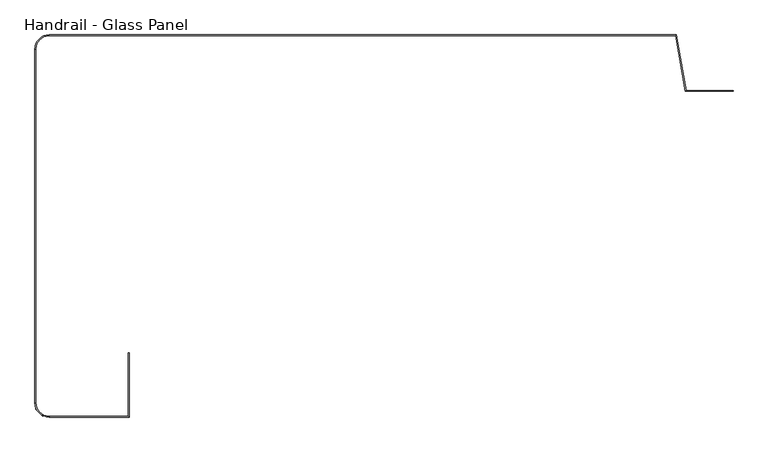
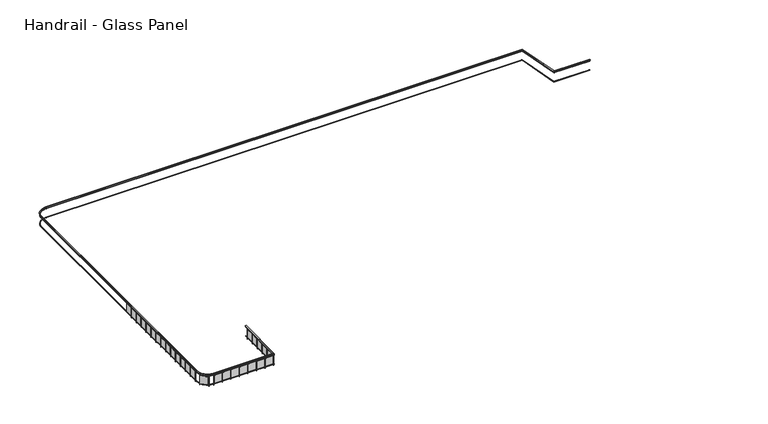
"""IFC4 building model written with IfcOpenShell, lengths in millimetres: railing geometry, Handrail - Glass Panel."""

from ifc_helpers import new_model, si_unit, frame, origin, place, context, project, spatial, polyline, circle_curve, outline, extrude, source, transform, mapped, element, save
from ifc_brep_helpers import plane_surface, cylinder_surface, revolved_surface, advanced_brep


def handrail_glass_panel_4cdfce9a(model_context):
    return source(origin(), model_context, "Body", "SolidModel", [
        advanced_brep(
        [(19857.4134101, 5398.1851347, 5564.4), (19857.4134101, 5347.3851347, 5564.4), (19857.4134101, 5347.3851347, 5513.6), (19857.4134101, 5398.1851347, 5513.6), (17200.0396714, 5398.1851347, 5564.4), (17157.4134101, 5347.3851347, 5564.4), (17157.4134101, 5347.3851347, 5513.6), (17200.0396714, 5398.1851347, 5513.6), (16644.6096821, 8548.1851347, 5564.4), (16601.9834209, 8497.3851347, 5564.4), (16601.9834209, 8497.3851347, 5513.6), (16644.6096821, 8548.1851347, 5513.6), (-18887.5865899, 8548.1851347, 5564.4), (-18887.5865899, 8497.3851347, 5564.4), (-18887.5865899, 8497.3851347, 5513.6), (-18887.5865899, 8548.1851347, 5513.6), (-19637.5865899, 7747.3851347, 5564.4), (-19688.3865899, 7747.3851347, 5564.4), (-19637.5865899, 7747.3851347, 5513.6), (-19688.3865899, 7747.3851347, 5513.6), (-19688.3865899, -12322.6148653, 5564.4), (-19637.5865899, -12322.6148653, 5564.4), (-19637.5865899, -12322.6148653, 5513.6), (-19688.3865899, -12322.6148653, 5513.6), (-18887.5865899, -13072.6148653, 5564.4), (-18887.5865899, -13123.4148653, 5564.4), (-18887.5865899, -13072.6148653, 5513.6), (-18887.5865899, -13123.4148653, 5513.6), (-14346.7865899, -13123.4148653, 5564.4), (-14397.5865899, -13072.6148653, 5564.4), (-14397.5865899, -13072.6148653, 5513.6), (-14346.7865899, -13123.4148653, 5513.6), (-14346.7865899, -9472.6148653, 5564.4), (-14346.7865899, -9472.6148653, 5513.6), (-14397.5865899, -9472.6148653, 5513.6), (-14397.5865899, -9472.6148653, 5564.4)],
        [
            (0, 1),
            (1, 2),
            (2, 3),
            (3, 0),
            (0, 4),
            (4, 5),
            (5, 1),
            (5, 6),
            (6, 2),
            (6, 7),
            (7, 3),
            (7, 4),
            (4, 8),
            (8, 9),
            (9, 5),
            (9, 10),
            (10, 6),
            (10, 11),
            (11, 7),
            (11, 8),
            (8, 12),
            (12, 13),
            (13, 9),
            (13, 14),
            (14, 10),
            (14, 15),
            (15, 11),
            (15, 12),
            (16, 13, circle_curve(frame((-18887.5865899, 7747.3851347, 5564.4), z_axis=(0.0, 0.0, -1.0), x_axis=(0.0, 1.0, 0.0)), 750.0)),
            (12, 17, circle_curve(frame((-18887.5865899, 7747.3851347, 5564.4), z_axis=(0.0, 0.0, 1.0), x_axis=(0.0, 1.0, 0.0)), 800.8)),
            (17, 16),
            (18, 14, circle_curve(frame((-18887.5865899, 7747.3851347, 5513.6), z_axis=(0.0, 0.0, -1.0), x_axis=(0.0, 1.0, 0.0)), 750.0)),
            (16, 18),
            (19, 15, circle_curve(frame((-18887.5865899, 7747.3851347, 5513.6), z_axis=(0.0, 0.0, -1.0), x_axis=(0.0, 1.0, 0.0)), 800.8)),
            (18, 19),
            (19, 17),
            (17, 20),
            (20, 21),
            (21, 16),
            (21, 22),
            (22, 18),
            (22, 23),
            (23, 19),
            (23, 20),
            (24, 21, circle_curve(frame((-18887.5865899, -12322.6148653, 5564.4), z_axis=(0.0, 0.0, -1.0), x_axis=(-1.0, 0.0, 0.0)), 750.0)),
            (20, 25, circle_curve(frame((-18887.5865899, -12322.6148653, 5564.4), z_axis=(0.0, 0.0, 1.0), x_axis=(-1.0, 0.0, 0.0)), 800.8)),
            (25, 24),
            (26, 22, circle_curve(frame((-18887.5865899, -12322.6148653, 5513.6), z_axis=(0.0, 0.0, -1.0), x_axis=(-1.0, 0.0, 0.0)), 750.0)),
            (24, 26),
            (27, 23, circle_curve(frame((-18887.5865899, -12322.6148653, 5513.6), z_axis=(0.0, 0.0, -1.0), x_axis=(-1.0, 0.0, 0.0)), 800.8)),
            (26, 27),
            (27, 25),
            (25, 28),
            (28, 29),
            (29, 24),
            (29, 30),
            (30, 26),
            (30, 31),
            (31, 27),
            (31, 28),
            (32, 33),
            (33, 34),
            (34, 35),
            (35, 32),
            (28, 32),
            (35, 29),
            (34, 30),
            (33, 31),
        ],
        [
            plane_surface(frame((19857.4134101, 5372.7851347, 5564.4), z_axis=(1.0, 0.0, 0.0), x_axis=(0.0, -1.0, 0.0))),
            plane_surface(frame((19857.4134101, 5398.1851347, 5564.4), z_axis=(0.0, 0.0, 1.0), x_axis=(-1.0, 0.0, 0.0))),
            plane_surface(frame((19857.4134101, 5347.3851347, 5564.4), z_axis=(0.0, -1.0, 0.0), x_axis=(-1.0, 0.0, 0.0))),
            plane_surface(frame((19857.4134101, 5347.3851347, 5513.6), z_axis=(0.0, 0.0, -1.0), x_axis=(-1.0, 0.0, 0.0))),
            plane_surface(frame((19857.4134101, 5398.1851347, 5513.6), z_axis=(0.0, 1.0, 0.0), x_axis=(-1.0, 0.0, 0.0))),
            plane_surface(frame((17200.0396714, 5398.1851347, 5564.4), z_axis=(0.0, 0.0, 1.0), x_axis=(-0.17364817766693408, 0.9848077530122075, 0.0))),
            plane_surface(frame((17157.4134101, 5347.3851347, 5564.4), z_axis=(-0.9848077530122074, -0.17364817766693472, 0.0), x_axis=(-0.17364817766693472, 0.9848077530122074, 0.0))),
            plane_surface(frame((17157.4134101, 5347.3851347, 5513.6), z_axis=(0.0, 0.0, -1.0), x_axis=(-0.17364817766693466, 0.9848077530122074, 0.0))),
            plane_surface(frame((17200.0396714, 5398.1851347, 5513.6), z_axis=(0.9848077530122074, 0.17364817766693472, 0.0), x_axis=(-0.17364817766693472, 0.9848077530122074, 0.0))),
            plane_surface(frame((16644.6096821, 8548.1851347, 5564.4), z_axis=(0.0, 0.0, 1.0), x_axis=(-1.0, 0.0, 0.0))),
            plane_surface(frame((16601.9834209, 8497.3851347, 5564.4), z_axis=(0.0, -1.0, 0.0), x_axis=(-1.0, 0.0, 0.0))),
            plane_surface(frame((16601.9834209, 8497.3851347, 5513.6), z_axis=(0.0, 0.0, -1.0), x_axis=(-1.0, 0.0, 0.0))),
            plane_surface(frame((16644.6096821, 8548.1851347, 5513.6), z_axis=(0.0, 1.0, 0.0), x_axis=(-1.0, 0.0, 0.0))),
            plane_surface(frame((-18887.5865899, 7747.3851347, 5564.4), z_axis=(0.0, 0.0, 1.0), x_axis=(0.0, 1.0, 0.0))),
            revolved_surface(polyline([(-18887.5865899, 8497.3851347, 5564.4), (-18887.5865899, 8497.3851347, 5513.6)]), (-18887.5865899, 7747.3851347, 5564.4), (0.0, 0.0, 1.0)),
            plane_surface(frame((-18887.5865899, 7747.3851347, 5513.6), z_axis=(0.0, 0.0, -1.0), x_axis=(0.0, 1.0, 0.0))),
            cylinder_surface(frame((-18887.5865899, 7747.3851347, 5564.4), z_axis=(0.0, 0.0, 1.0), x_axis=(0.0, 1.0, 0.0)), 800.8),
            plane_surface(frame((-19688.3865899, 7747.3851347, 5564.4), z_axis=(0.0, 0.0, 1.0), x_axis=(0.0, -1.0, 0.0))),
            plane_surface(frame((-19637.5865899, 7747.3851347, 5564.4), z_axis=(1.0, 0.0, 0.0), x_axis=(0.0, -1.0, 0.0))),
            plane_surface(frame((-19637.5865899, 7747.3851347, 5513.6), z_axis=(0.0, 0.0, -1.0), x_axis=(0.0, -1.0, 0.0))),
            plane_surface(frame((-19688.3865899, 7747.3851347, 5513.6), z_axis=(-1.0, 0.0, 0.0), x_axis=(0.0, -1.0, 0.0))),
            plane_surface(frame((-18887.5865899, -12322.6148653, 5564.4), z_axis=(0.0, 0.0, 1.0), x_axis=(-1.0, 0.0, 0.0))),
            revolved_surface(polyline([(-19637.5865899, -12322.6148653, 5564.4), (-19637.5865899, -12322.6148653, 5513.6)]), (-18887.5865899, -12322.6148653, 5564.4), (0.0, 0.0, 1.0)),
            plane_surface(frame((-18887.5865899, -12322.6148653, 5513.6), z_axis=(0.0, 0.0, -1.0), x_axis=(-1.0, 0.0, 0.0))),
            cylinder_surface(frame((-18887.5865899, -12322.6148653, 5564.4), z_axis=(0.0, 0.0, 1.0), x_axis=(-1.0, 0.0, 0.0)), 800.8),
            plane_surface(frame((-18887.5865899, -13123.4148653, 5564.4), z_axis=(0.0, 0.0, 1.0), x_axis=(1.0, 0.0, 0.0))),
            plane_surface(frame((-18887.5865899, -13072.6148653, 5564.4), z_axis=(0.0, 1.0, 0.0), x_axis=(1.0, 0.0, 0.0))),
            plane_surface(frame((-18887.5865899, -13072.6148653, 5513.6), z_axis=(0.0, 0.0, -1.0), x_axis=(1.0, 0.0, 0.0))),
            plane_surface(frame((-18887.5865899, -13123.4148653, 5513.6), z_axis=(0.0, -1.0, 0.0), x_axis=(1.0, 0.0, 0.0))),
            plane_surface(frame((-14372.1865899, -9472.6148653, 5564.4), z_axis=(0.0, 1.0, 0.0), x_axis=(0.0, 0.0, 1.0))),
            plane_surface(frame((-14346.7865899, -13123.4148653, 5564.4), z_axis=(0.0, 0.0, 1.0), x_axis=(0.0, 1.0, 0.0))),
            plane_surface(frame((-14397.5865899, -13072.6148653, 5564.4), z_axis=(-1.0, 0.0, 0.0), x_axis=(0.0, 1.0, 0.0))),
            plane_surface(frame((-14397.5865899, -13072.6148653, 5513.6), z_axis=(0.0, 0.0, -1.0), x_axis=(0.0, 1.0, 0.0))),
            plane_surface(frame((-14346.7865899, -13123.4148653, 5513.6), z_axis=(1.0, 0.0, 0.0), x_axis=(0.0, 1.0, 0.0))),
        ],
        [
            (0, [[1, 2, 3, 4]]),
            (1, [[-1, 5, 6, 7]]),
            (2, [[-2, -7, 8, 9]]),
            (3, [[-3, -9, 10, 11]]),
            (4, [[-4, -11, 12, -5]]),
            (5, [[-6, 13, 14, 15]]),
            (6, [[-8, -15, 16, 17]]),
            (7, [[-10, -17, 18, 19]]),
            (8, [[-12, -19, 20, -13]]),
            (9, [[-14, 21, 22, 23]]),
            (10, [[-16, -23, 24, 25]]),
            (11, [[-18, -25, 26, 27]]),
            (12, [[-20, -27, 28, -21]]),
            (13, [[29, -22, 30, 31]]),
            (14, [[32, -24, -29, 33]]),
            (15, [[34, -26, -32, 35]]),
            (16, [[-30, -28, -34, 36]]),
            (17, [[-31, 37, 38, 39]]),
            (18, [[-33, -39, 40, 41]]),
            (19, [[-35, -41, 42, 43]]),
            (20, [[-36, -43, 44, -37]]),
            (21, [[45, -38, 46, 47]]),
            (22, [[48, -40, -45, 49]]),
            (23, [[50, -42, -48, 51]]),
            (24, [[-46, -44, -50, 52]]),
            (25, [[-47, 53, 54, 55]]),
            (26, [[-49, -55, 56, 57]]),
            (27, [[-51, -57, 58, 59]]),
            (28, [[-52, -59, 60, -53]]),
            (29, [[61, 62, 63, 64]]),
            (30, [[-54, 65, -64, 66]]),
            (31, [[-56, -66, -63, 67]]),
            (32, [[-58, -67, -62, 68]]),
            (33, [[-60, -68, -61, -65]]),
        ],
    ),
        advanced_brep(
        [(19857.4134101, 5385.4851347, 5462.8), (19857.4134101, 5360.0851347, 5462.8), (19857.4134101, 5360.0851347, 5437.4), (19857.4134101, 5385.4851347, 5437.4), (17189.3831061, 5385.4851347, 5462.8), (17168.0699754, 5360.0851347, 5462.8), (17168.0699754, 5360.0851347, 5437.4), (17189.3831061, 5385.4851347, 5437.4), (16633.9531168, 8535.4851347, 5462.8), (16612.6399862, 8510.0851347, 5462.8), (16612.6399862, 8510.0851347, 5437.4), (16633.9531168, 8535.4851347, 5437.4), (-18887.5865899, 8535.4851347, 5462.8), (-18887.5865899, 8510.0851347, 5462.8), (-18887.5865899, 8510.0851347, 5437.4), (-18887.5865899, 8535.4851347, 5437.4), (-19650.2865899, 7747.3851347, 5462.8), (-19675.6865899, 7747.3851347, 5462.8), (-19650.2865899, 7747.3851347, 5437.4), (-19675.6865899, 7747.3851347, 5437.4), (-19675.6865899, -12322.6148653, 5462.8), (-19650.2865899, -12322.6148653, 5462.8), (-19650.2865899, -12322.6148653, 5437.4), (-19675.6865899, -12322.6148653, 5437.4), (-18887.5865899, -13085.3148653, 5462.8), (-18887.5865899, -13110.7148653, 5462.8), (-18887.5865899, -13085.3148653, 5437.4), (-18887.5865899, -13110.7148653, 5437.4), (-14359.4865899, -13110.7148653, 5462.8), (-14384.8865899, -13085.3148653, 5462.8), (-14384.8865899, -13085.3148653, 5437.4), (-14359.4865899, -13110.7148653, 5437.4), (-14359.4865899, -9472.6148653, 5462.8), (-14359.4865899, -9472.6148653, 5437.4), (-14384.8865899, -9472.6148653, 5437.4), (-14384.8865899, -9472.6148653, 5462.8)],
        [
            (0, 1),
            (1, 2),
            (2, 3),
            (3, 0),
            (0, 4),
            (4, 5),
            (5, 1),
            (5, 6),
            (6, 2),
            (6, 7),
            (7, 3),
            (7, 4),
            (4, 8),
            (8, 9),
            (9, 5),
            (9, 10),
            (10, 6),
            (10, 11),
            (11, 7),
            (11, 8),
            (8, 12),
            (12, 13),
            (13, 9),
            (13, 14),
            (14, 10),
            (14, 15),
            (15, 11),
            (15, 12),
            (16, 13, circle_curve(frame((-18887.5865899, 7747.3851347, 5462.8), z_axis=(0.0, 0.0, -1.0), x_axis=(0.0, 1.0, 0.0)), 762.7)),
            (12, 17, circle_curve(frame((-18887.5865899, 7747.3851347, 5462.8), z_axis=(0.0, 0.0, 1.0), x_axis=(0.0, 1.0, 0.0)), 788.1)),
            (17, 16),
            (18, 14, circle_curve(frame((-18887.5865899, 7747.3851347, 5437.4), z_axis=(0.0, 0.0, -1.0), x_axis=(0.0, 1.0, 0.0)), 762.7)),
            (16, 18),
            (19, 15, circle_curve(frame((-18887.5865899, 7747.3851347, 5437.4), z_axis=(0.0, 0.0, -1.0), x_axis=(0.0, 1.0, 0.0)), 788.1)),
            (18, 19),
            (19, 17),
            (17, 20),
            (20, 21),
            (21, 16),
            (21, 22),
            (22, 18),
            (22, 23),
            (23, 19),
            (23, 20),
            (24, 21, circle_curve(frame((-18887.5865899, -12322.6148653, 5462.8), z_axis=(0.0, 0.0, -1.0), x_axis=(-1.0, 0.0, 0.0)), 762.7)),
            (20, 25, circle_curve(frame((-18887.5865899, -12322.6148653, 5462.8), z_axis=(0.0, 0.0, 1.0), x_axis=(-1.0, 0.0, 0.0)), 788.1)),
            (25, 24),
            (26, 22, circle_curve(frame((-18887.5865899, -12322.6148653, 5437.4), z_axis=(0.0, 0.0, -1.0), x_axis=(-1.0, 0.0, 0.0)), 762.7)),
            (24, 26),
            (27, 23, circle_curve(frame((-18887.5865899, -12322.6148653, 5437.4), z_axis=(0.0, 0.0, -1.0), x_axis=(-1.0, 0.0, 0.0)), 788.1)),
            (26, 27),
            (27, 25),
            (25, 28),
            (28, 29),
            (29, 24),
            (29, 30),
            (30, 26),
            (30, 31),
            (31, 27),
            (31, 28),
            (32, 33),
            (33, 34),
            (34, 35),
            (35, 32),
            (28, 32),
            (35, 29),
            (34, 30),
            (33, 31),
        ],
        [
            plane_surface(frame((19857.4134101, 5372.7851347, 5462.8), z_axis=(1.0, 0.0, 0.0), x_axis=(0.0, -1.0, 0.0))),
            plane_surface(frame((19857.4134101, 5385.4851347, 5462.8), z_axis=(0.0, 0.0, 1.0), x_axis=(-1.0, 0.0, 0.0))),
            plane_surface(frame((19857.4134101, 5360.0851347, 5462.8), z_axis=(0.0, -1.0, 0.0), x_axis=(-1.0, 0.0, 0.0))),
            plane_surface(frame((19857.4134101, 5360.0851347, 5437.4), z_axis=(0.0, 0.0, -1.0), x_axis=(-1.0, 0.0, 0.0))),
            plane_surface(frame((19857.4134101, 5385.4851347, 5437.4), z_axis=(0.0, 1.0, 0.0), x_axis=(-1.0, 0.0, 0.0))),
            plane_surface(frame((17189.3831061, 5385.4851347, 5462.8), z_axis=(0.0, 0.0, 1.0), x_axis=(-0.17364817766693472, 0.9848077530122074, 0.0))),
            plane_surface(frame((17168.0699754, 5360.0851347, 5462.8), z_axis=(-0.9848077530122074, -0.17364817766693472, 0.0), x_axis=(-0.17364817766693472, 0.9848077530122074, 0.0))),
            plane_surface(frame((17168.0699754, 5360.0851347, 5437.4), z_axis=(0.0, 0.0, -1.0), x_axis=(-0.17364817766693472, 0.9848077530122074, 0.0))),
            plane_surface(frame((17189.3831061, 5385.4851347, 5437.4), z_axis=(0.9848077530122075, 0.17364817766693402, 0.0), x_axis=(-0.17364817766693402, 0.9848077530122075, 0.0))),
            plane_surface(frame((16633.9531168, 8535.4851347, 5462.8), z_axis=(0.0, 0.0, 1.0), x_axis=(-1.0, 0.0, 0.0))),
            plane_surface(frame((16612.6399862, 8510.0851347, 5462.8), z_axis=(0.0, -1.0, 0.0), x_axis=(-1.0, 0.0, 0.0))),
            plane_surface(frame((16612.6399862, 8510.0851347, 5437.4), z_axis=(0.0, 0.0, -1.0), x_axis=(-1.0, 0.0, 0.0))),
            plane_surface(frame((16633.9531168, 8535.4851347, 5437.4), z_axis=(0.0, 1.0, 0.0), x_axis=(-1.0, 0.0, 0.0))),
            plane_surface(frame((-18887.5865899, 7747.3851347, 5462.8), z_axis=(0.0, 0.0, 1.0), x_axis=(0.0, 1.0, 0.0))),
            revolved_surface(polyline([(-18887.5865899, 8510.0851347, 5462.8), (-18887.5865899, 8510.0851347, 5437.4)]), (-18887.5865899, 7747.3851347, 5462.8), (0.0, 0.0, 1.0)),
            plane_surface(frame((-18887.5865899, 7747.3851347, 5437.4), z_axis=(0.0, 0.0, -1.0), x_axis=(0.0, 1.0, 0.0))),
            cylinder_surface(frame((-18887.5865899, 7747.3851347, 5462.8), z_axis=(0.0, 0.0, 1.0), x_axis=(0.0, 1.0, 0.0)), 788.1),
            plane_surface(frame((-19675.6865899, 7747.3851347, 5462.8), z_axis=(0.0, 0.0, 1.0), x_axis=(0.0, -1.0, 0.0))),
            plane_surface(frame((-19650.2865899, 7747.3851347, 5462.8), z_axis=(1.0, 0.0, 0.0), x_axis=(0.0, -1.0, 0.0))),
            plane_surface(frame((-19650.2865899, 7747.3851347, 5437.4), z_axis=(0.0, 0.0, -1.0), x_axis=(0.0, -1.0, 0.0))),
            plane_surface(frame((-19675.6865899, 7747.3851347, 5437.4), z_axis=(-1.0, 0.0, 0.0), x_axis=(0.0, -1.0, 0.0))),
            plane_surface(frame((-18887.5865899, -12322.6148653, 5462.8), z_axis=(0.0, 0.0, 1.0), x_axis=(-1.0, 0.0, 0.0))),
            revolved_surface(polyline([(-19650.2865899, -12322.6148653, 5462.8), (-19650.2865899, -12322.6148653, 5437.4)]), (-18887.5865899, -12322.6148653, 5462.8), (0.0, 0.0, 1.0)),
            plane_surface(frame((-18887.5865899, -12322.6148653, 5437.4), z_axis=(0.0, 0.0, -1.0), x_axis=(-1.0, 0.0, 0.0))),
            cylinder_surface(frame((-18887.5865899, -12322.6148653, 5462.8), z_axis=(0.0, 0.0, 1.0), x_axis=(-1.0, 0.0, 0.0)), 788.1),
            plane_surface(frame((-18887.5865899, -13110.7148653, 5462.8), z_axis=(0.0, 0.0, 1.0), x_axis=(1.0, 0.0, 0.0))),
            plane_surface(frame((-18887.5865899, -13085.3148653, 5462.8), z_axis=(0.0, 1.0, 0.0), x_axis=(1.0, 0.0, 0.0))),
            plane_surface(frame((-18887.5865899, -13085.3148653, 5437.4), z_axis=(0.0, 0.0, -1.0), x_axis=(1.0, 0.0, 0.0))),
            plane_surface(frame((-18887.5865899, -13110.7148653, 5437.4), z_axis=(0.0, -1.0, 0.0), x_axis=(1.0, 0.0, 0.0))),
            plane_surface(frame((-14372.1865899, -9472.6148653, 5462.8), z_axis=(0.0, 1.0, 0.0), x_axis=(0.0, 0.0, 1.0))),
            plane_surface(frame((-14359.4865899, -13110.7148653, 5462.8), z_axis=(0.0, 0.0, 1.0), x_axis=(0.0, 1.0, 0.0))),
            plane_surface(frame((-14384.8865899, -13085.3148653, 5462.8), z_axis=(-1.0, 0.0, 0.0), x_axis=(0.0, 1.0, 0.0))),
            plane_surface(frame((-14384.8865899, -13085.3148653, 5437.4), z_axis=(0.0, 0.0, -1.0), x_axis=(0.0, 1.0, 0.0))),
            plane_surface(frame((-14359.4865899, -13110.7148653, 5437.4), z_axis=(1.0, 0.0, 0.0), x_axis=(0.0, 1.0, 0.0))),
        ],
        [
            (0, [[1, 2, 3, 4]]),
            (1, [[-1, 5, 6, 7]]),
            (2, [[-2, -7, 8, 9]]),
            (3, [[-3, -9, 10, 11]]),
            (4, [[-4, -11, 12, -5]]),
            (5, [[-6, 13, 14, 15]]),
            (6, [[-8, -15, 16, 17]]),
            (7, [[-10, -17, 18, 19]]),
            (8, [[-12, -19, 20, -13]]),
            (9, [[-14, 21, 22, 23]]),
            (10, [[-16, -23, 24, 25]]),
            (11, [[-18, -25, 26, 27]]),
            (12, [[-20, -27, 28, -21]]),
            (13, [[29, -22, 30, 31]]),
            (14, [[32, -24, -29, 33]]),
            (15, [[34, -26, -32, 35]]),
            (16, [[-30, -28, -34, 36]]),
            (17, [[-31, 37, 38, 39]]),
            (18, [[-33, -39, 40, 41]]),
            (19, [[-35, -41, 42, 43]]),
            (20, [[-36, -43, 44, -37]]),
            (21, [[45, -38, 46, 47]]),
            (22, [[48, -40, -45, 49]]),
            (23, [[50, -42, -48, 51]]),
            (24, [[-46, -44, -50, 52]]),
            (25, [[-47, 53, 54, 55]]),
            (26, [[-49, -55, 56, 57]]),
            (27, [[-51, -57, 58, 59]]),
            (28, [[-52, -59, 60, -53]]),
            (29, [[61, 62, 63, 64]]),
            (30, [[-54, 65, -64, 66]]),
            (31, [[-56, -66, -63, 67]]),
            (32, [[-58, -67, -62, 68]]),
            (33, [[-60, -68, -61, -65]]),
        ],
    ),
        advanced_brep(
        [(19857.4134101, 5385.4851347, 4751.6), (19857.4134101, 5360.0851347, 4751.6), (19857.4134101, 5360.0851347, 4726.2), (19857.4134101, 5385.4851347, 4726.2), (17189.3831061, 5385.4851347, 4751.6), (17168.0699754, 5360.0851347, 4751.6), (17168.0699754, 5360.0851347, 4726.2), (17189.3831061, 5385.4851347, 4726.2), (16633.9531168, 8535.4851347, 4751.6), (16612.6399862, 8510.0851347, 4751.6), (16612.6399862, 8510.0851347, 4726.2), (16633.9531168, 8535.4851347, 4726.2), (-18887.5865899, 8535.4851347, 4751.6), (-18887.5865899, 8510.0851347, 4751.6), (-18887.5865899, 8510.0851347, 4726.2), (-18887.5865899, 8535.4851347, 4726.2), (-19650.2865899, 7747.3851347, 4751.6), (-19675.6865899, 7747.3851347, 4751.6), (-19650.2865899, 7747.3851347, 4726.2), (-19675.6865899, 7747.3851347, 4726.2), (-19675.6865899, -12322.6148653, 4751.6), (-19650.2865899, -12322.6148653, 4751.6), (-19650.2865899, -12322.6148653, 4726.2), (-19675.6865899, -12322.6148653, 4726.2), (-18887.5865899, -13085.3148653, 4751.6), (-18887.5865899, -13110.7148653, 4751.6), (-18887.5865899, -13085.3148653, 4726.2), (-18887.5865899, -13110.7148653, 4726.2), (-14359.4865899, -13110.7148653, 4751.6), (-14384.8865899, -13085.3148653, 4751.6), (-14384.8865899, -13085.3148653, 4726.2), (-14359.4865899, -13110.7148653, 4726.2), (-14359.4865899, -9472.6148653, 4751.6), (-14359.4865899, -9472.6148653, 4726.2), (-14384.8865899, -9472.6148653, 4726.2), (-14384.8865899, -9472.6148653, 4751.6)],
        [
            (0, 1),
            (1, 2),
            (2, 3),
            (3, 0),
            (0, 4),
            (4, 5),
            (5, 1),
            (5, 6),
            (6, 2),
            (6, 7),
            (7, 3),
            (7, 4),
            (4, 8),
            (8, 9),
            (9, 5),
            (9, 10),
            (10, 6),
            (10, 11),
            (11, 7),
            (11, 8),
            (8, 12),
            (12, 13),
            (13, 9),
            (13, 14),
            (14, 10),
            (14, 15),
            (15, 11),
            (15, 12),
            (16, 13, circle_curve(frame((-18887.5865899, 7747.3851347, 4751.6), z_axis=(0.0, 0.0, -1.0), x_axis=(0.0, 1.0, 0.0)), 762.7)),
            (12, 17, circle_curve(frame((-18887.5865899, 7747.3851347, 4751.6), z_axis=(0.0, 0.0, 1.0), x_axis=(0.0, 1.0, 0.0)), 788.1)),
            (17, 16),
            (18, 14, circle_curve(frame((-18887.5865899, 7747.3851347, 4726.2), z_axis=(0.0, 0.0, -1.0), x_axis=(0.0, 1.0, 0.0)), 762.7)),
            (16, 18),
            (19, 15, circle_curve(frame((-18887.5865899, 7747.3851347, 4726.2), z_axis=(0.0, 0.0, -1.0), x_axis=(0.0, 1.0, 0.0)), 788.1)),
            (18, 19),
            (19, 17),
            (17, 20),
            (20, 21),
            (21, 16),
            (21, 22),
            (22, 18),
            (22, 23),
            (23, 19),
            (23, 20),
            (24, 21, circle_curve(frame((-18887.5865899, -12322.6148653, 4751.6), z_axis=(0.0, 0.0, -1.0), x_axis=(-1.0, 0.0, 0.0)), 762.7)),
            (20, 25, circle_curve(frame((-18887.5865899, -12322.6148653, 4751.6), z_axis=(0.0, 0.0, 1.0), x_axis=(-1.0, 0.0, 0.0)), 788.1)),
            (25, 24),
            (26, 22, circle_curve(frame((-18887.5865899, -12322.6148653, 4726.2), z_axis=(0.0, 0.0, -1.0), x_axis=(-1.0, 0.0, 0.0)), 762.7)),
            (24, 26),
            (27, 23, circle_curve(frame((-18887.5865899, -12322.6148653, 4726.2), z_axis=(0.0, 0.0, -1.0), x_axis=(-1.0, 0.0, 0.0)), 788.1)),
            (26, 27),
            (27, 25),
            (25, 28),
            (28, 29),
            (29, 24),
            (29, 30),
            (30, 26),
            (30, 31),
            (31, 27),
            (31, 28),
            (32, 33),
            (33, 34),
            (34, 35),
            (35, 32),
            (28, 32),
            (35, 29),
            (34, 30),
            (33, 31),
        ],
        [
            plane_surface(frame((19857.4134101, 5372.7851347, 4751.6), z_axis=(1.0, 0.0, 0.0), x_axis=(0.0, -1.0, 0.0))),
            plane_surface(frame((19857.4134101, 5385.4851347, 4751.6), z_axis=(0.0, 0.0, 1.0), x_axis=(-1.0, 0.0, 0.0))),
            plane_surface(frame((19857.4134101, 5360.0851347, 4751.6), z_axis=(0.0, -1.0, 0.0), x_axis=(-1.0, 0.0, 0.0))),
            plane_surface(frame((19857.4134101, 5360.0851347, 4726.2), z_axis=(0.0, 0.0, -1.0), x_axis=(-1.0, 0.0, 0.0))),
            plane_surface(frame((19857.4134101, 5385.4851347, 4726.2), z_axis=(0.0, 1.0, 0.0), x_axis=(-1.0, 0.0, 0.0))),
            plane_surface(frame((17189.3831061, 5385.4851347, 4751.6), z_axis=(0.0, 0.0, 1.0), x_axis=(-0.17364817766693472, 0.9848077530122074, 0.0))),
            plane_surface(frame((17168.0699754, 5360.0851347, 4751.6), z_axis=(-0.9848077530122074, -0.17364817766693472, 0.0), x_axis=(-0.17364817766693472, 0.9848077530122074, 0.0))),
            plane_surface(frame((17168.0699754, 5360.0851347, 4726.2), z_axis=(0.0, 0.0, -1.0), x_axis=(-0.17364817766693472, 0.9848077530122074, 0.0))),
            plane_surface(frame((17189.3831061, 5385.4851347, 4726.2), z_axis=(0.9848077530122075, 0.17364817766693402, 0.0), x_axis=(-0.17364817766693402, 0.9848077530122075, 0.0))),
            plane_surface(frame((16633.9531168, 8535.4851347, 4751.6), z_axis=(0.0, 0.0, 1.0), x_axis=(-1.0, 0.0, 0.0))),
            plane_surface(frame((16612.6399862, 8510.0851347, 4751.6), z_axis=(0.0, -1.0, 0.0), x_axis=(-1.0, 0.0, 0.0))),
            plane_surface(frame((16612.6399862, 8510.0851347, 4726.2), z_axis=(0.0, 0.0, -1.0), x_axis=(-1.0, 0.0, 0.0))),
            plane_surface(frame((16633.9531168, 8535.4851347, 4726.2), z_axis=(0.0, 1.0, 0.0), x_axis=(-1.0, 0.0, 0.0))),
            plane_surface(frame((-18887.5865899, 7747.3851347, 4751.6), z_axis=(0.0, 0.0, 1.0), x_axis=(0.0, 1.0, 0.0))),
            revolved_surface(polyline([(-18887.5865899, 8510.0851347, 4751.6), (-18887.5865899, 8510.0851347, 4726.2)]), (-18887.5865899, 7747.3851347, 4751.6), (0.0, 0.0, 1.0)),
            plane_surface(frame((-18887.5865899, 7747.3851347, 4726.2), z_axis=(0.0, 0.0, -1.0), x_axis=(0.0, 1.0, 0.0))),
            cylinder_surface(frame((-18887.5865899, 7747.3851347, 4751.6), z_axis=(0.0, 0.0, 1.0), x_axis=(0.0, 1.0, 0.0)), 788.1),
            plane_surface(frame((-19675.6865899, 7747.3851347, 4751.6), z_axis=(0.0, 0.0, 1.0), x_axis=(0.0, -1.0, 0.0))),
            plane_surface(frame((-19650.2865899, 7747.3851347, 4751.6), z_axis=(1.0, 0.0, 0.0), x_axis=(0.0, -1.0, 0.0))),
            plane_surface(frame((-19650.2865899, 7747.3851347, 4726.2), z_axis=(0.0, 0.0, -1.0), x_axis=(0.0, -1.0, 0.0))),
            plane_surface(frame((-19675.6865899, 7747.3851347, 4726.2), z_axis=(-1.0, 0.0, 0.0), x_axis=(0.0, -1.0, 0.0))),
            plane_surface(frame((-18887.5865899, -12322.6148653, 4751.6), z_axis=(0.0, 0.0, 1.0), x_axis=(-1.0, 0.0, 0.0))),
            revolved_surface(polyline([(-19650.2865899, -12322.6148653, 4751.6), (-19650.2865899, -12322.6148653, 4726.2)]), (-18887.5865899, -12322.6148653, 4751.6), (0.0, 0.0, 1.0)),
            plane_surface(frame((-18887.5865899, -12322.6148653, 4726.2), z_axis=(0.0, 0.0, -1.0), x_axis=(-1.0, 0.0, 0.0))),
            cylinder_surface(frame((-18887.5865899, -12322.6148653, 4751.6), z_axis=(0.0, 0.0, 1.0), x_axis=(-1.0, 0.0, 0.0)), 788.1),
            plane_surface(frame((-18887.5865899, -13110.7148653, 4751.6), z_axis=(0.0, 0.0, 1.0), x_axis=(1.0, 0.0, 0.0))),
            plane_surface(frame((-18887.5865899, -13085.3148653, 4751.6), z_axis=(0.0, 1.0, 0.0), x_axis=(1.0, 0.0, 0.0))),
            plane_surface(frame((-18887.5865899, -13085.3148653, 4726.2), z_axis=(0.0, 0.0, -1.0), x_axis=(1.0, 0.0, 0.0))),
            plane_surface(frame((-18887.5865899, -13110.7148653, 4726.2), z_axis=(0.0, -1.0, 0.0), x_axis=(1.0, 0.0, 0.0))),
            plane_surface(frame((-14372.1865899, -9472.6148653, 4751.6), z_axis=(0.0, 1.0, 0.0), x_axis=(0.0, 0.0, 1.0))),
            plane_surface(frame((-14359.4865899, -13110.7148653, 4751.6), z_axis=(0.0, 0.0, 1.0), x_axis=(0.0, 1.0, 0.0))),
            plane_surface(frame((-14384.8865899, -13085.3148653, 4751.6), z_axis=(-1.0, 0.0, 0.0), x_axis=(0.0, 1.0, 0.0))),
            plane_surface(frame((-14384.8865899, -13085.3148653, 4726.2), z_axis=(0.0, 0.0, -1.0), x_axis=(0.0, 1.0, 0.0))),
            plane_surface(frame((-14359.4865899, -13110.7148653, 4726.2), z_axis=(1.0, 0.0, 0.0), x_axis=(0.0, 1.0, 0.0))),
        ],
        [
            (0, [[1, 2, 3, 4]]),
            (1, [[-1, 5, 6, 7]]),
            (2, [[-2, -7, 8, 9]]),
            (3, [[-3, -9, 10, 11]]),
            (4, [[-4, -11, 12, -5]]),
            (5, [[-6, 13, 14, 15]]),
            (6, [[-8, -15, 16, 17]]),
            (7, [[-10, -17, 18, 19]]),
            (8, [[-12, -19, 20, -13]]),
            (9, [[-14, 21, 22, 23]]),
            (10, [[-16, -23, 24, 25]]),
            (11, [[-18, -25, 26, 27]]),
            (12, [[-20, -27, 28, -21]]),
            (13, [[29, -22, 30, 31]]),
            (14, [[32, -24, -29, 33]]),
            (15, [[34, -26, -32, 35]]),
            (16, [[-30, -28, -34, 36]]),
            (17, [[-31, 37, 38, 39]]),
            (18, [[-33, -39, 40, 41]]),
            (19, [[-35, -41, 42, 43]]),
            (20, [[-36, -43, 44, -37]]),
            (21, [[45, -38, 46, 47]]),
            (22, [[48, -40, -45, 49]]),
            (23, [[50, -42, -48, 51]]),
            (24, [[-46, -44, -50, 52]]),
            (25, [[-47, 53, 54, 55]]),
            (26, [[-49, -55, 56, 57]]),
            (27, [[-51, -57, 58, 59]]),
            (28, [[-52, -59, 60, -53]]),
            (29, [[61, 62, 63, 64]]),
            (30, [[-54, 65, -64, 66]]),
            (31, [[-56, -66, -63, 67]]),
            (32, [[-58, -67, -62, 68]]),
            (33, [[-60, -68, -61, -65]]),
        ],
    ),
        extrude(outline(polyline([(-14362.6615899, -9707.3398653), (-14381.7115899, -9707.3398653), (-14381.7115899, -9688.2898653), (-14362.6615899, -9688.2898653), (-14362.6615899, -9707.3398653)])), frame((0.0, 0.0, 4650.0), z_axis=(0.0, 0.0, 1.0), x_axis=(1.0, 0.0, 0.0)), (0.0, 0.0, 1.0), 863.6),
        extrude(outline(polyline([(-14378.5365899, -10294.7148653), (-14378.5365899, -9735.9148653), (-14372.1865899, -9735.9148653), (-14372.1865899, -10294.7148653), (-14378.5365899, -10294.7148653)])), frame((0.0, 0.0, 4777.0), z_axis=(0.0, 0.0, 1.0), x_axis=(1.0, 0.0, 0.0)), (0.0, 0.0, 1.0), 635.0),
        extrude(outline(polyline([(-14362.6615899, -10342.3398653), (-14381.7115899, -10342.3398653), (-14381.7115899, -10323.2898653), (-14362.6615899, -10323.2898653), (-14362.6615899, -10342.3398653)])), frame((0.0, 0.0, 4650.0), z_axis=(0.0, 0.0, 1.0), x_axis=(1.0, 0.0, 0.0)), (0.0, 0.0, 1.0), 863.6),
        extrude(outline(polyline([(-14378.5365899, -10929.7148653), (-14378.5365899, -10370.9148653), (-14372.1865899, -10370.9148653), (-14372.1865899, -10929.7148653), (-14378.5365899, -10929.7148653)])), frame((0.0, 0.0, 4777.0), z_axis=(0.0, 0.0, 1.0), x_axis=(1.0, 0.0, 0.0)), (0.0, 0.0, 1.0), 635.0),
        extrude(outline(polyline([(-14362.6615899, -10977.3398653), (-14381.7115899, -10977.3398653), (-14381.7115899, -10958.2898653), (-14362.6615899, -10958.2898653), (-14362.6615899, -10977.3398653)])), frame((0.0, 0.0, 4650.0), z_axis=(0.0, 0.0, 1.0), x_axis=(1.0, 0.0, 0.0)), (0.0, 0.0, 1.0), 863.6),
        extrude(outline(polyline([(-14378.5365899, -11564.7148653), (-14378.5365899, -11005.9148653), (-14372.1865899, -11005.9148653), (-14372.1865899, -11564.7148653), (-14378.5365899, -11564.7148653)])), frame((0.0, 0.0, 4777.0), z_axis=(0.0, 0.0, 1.0), x_axis=(1.0, 0.0, 0.0)), (0.0, 0.0, 1.0), 635.0),
        extrude(outline(polyline([(-14362.6615899, -11612.3398653), (-14381.7115899, -11612.3398653), (-14381.7115899, -11593.2898653), (-14362.6615899, -11593.2898653), (-14362.6615899, -11612.3398653)])), frame((0.0, 0.0, 4650.0), z_axis=(0.0, 0.0, 1.0), x_axis=(1.0, 0.0, 0.0)), (0.0, 0.0, 1.0), 863.6),
        extrude(outline(polyline([(-14378.5365899, -12199.7148653), (-14378.5365899, -11640.9148653), (-14372.1865899, -11640.9148653), (-14372.1865899, -12199.7148653), (-14378.5365899, -12199.7148653)])), frame((0.0, 0.0, 4777.0), z_axis=(0.0, 0.0, 1.0), x_axis=(1.0, 0.0, 0.0)), (0.0, 0.0, 1.0), 635.0),
        extrude(outline(polyline([(-14362.6615899, -12247.3398653), (-14381.7115899, -12247.3398653), (-14381.7115899, -12228.2898653), (-14362.6615899, -12228.2898653), (-14362.6615899, -12247.3398653)])), frame((0.0, 0.0, 4650.0), z_axis=(0.0, 0.0, 1.0), x_axis=(1.0, 0.0, 0.0)), (0.0, 0.0, 1.0), 863.6),
        extrude(outline(polyline([(-14378.5365899, -12834.7148653), (-14378.5365899, -12275.9148653), (-14372.1865899, -12275.9148653), (-14372.1865899, -12834.7148653), (-14378.5365899, -12834.7148653)])), frame((0.0, 0.0, 4777.0), z_axis=(0.0, 0.0, 1.0), x_axis=(1.0, 0.0, 0.0)), (0.0, 0.0, 1.0), 635.0),
        extrude(outline(polyline([(-14362.6615899, -12882.3398653), (-14381.7115899, -12882.3398653), (-14381.7115899, -12863.2898653), (-14362.6615899, -12863.2898653), (-14362.6615899, -12882.3398653)])), frame((0.0, 0.0, 4650.0), z_axis=(0.0, 0.0, 1.0), x_axis=(1.0, 0.0, 0.0)), (0.0, 0.0, 1.0), 863.6),
        extrude(outline(polyline([(-14416.9115899, -13107.5398653), (-14416.9115899, -13088.4898653), (-14397.8615899, -13088.4898653), (-14397.8615899, -13107.5398653), (-14416.9115899, -13107.5398653)])), frame((0.0, 0.0, 4650.0), z_axis=(0.0, 0.0, 1.0), x_axis=(1.0, 0.0, 0.0)), (0.0, 0.0, 1.0), 863.6),
        extrude(outline(polyline([(-15004.2865899, -13091.6648653), (-14445.4865899, -13091.6648653), (-14445.4865899, -13098.0148653), (-15004.2865899, -13098.0148653), (-15004.2865899, -13091.6648653)])), frame((0.0, 0.0, 4777.0), z_axis=(0.0, 0.0, 1.0), x_axis=(1.0, 0.0, 0.0)), (0.0, 0.0, 1.0), 635.0),
        extrude(outline(polyline([(-15051.9115899, -13107.5398653), (-15051.9115899, -13088.4898653), (-15032.8615899, -13088.4898653), (-15032.8615899, -13107.5398653), (-15051.9115899, -13107.5398653)])), frame((0.0, 0.0, 4650.0), z_axis=(0.0, 0.0, 1.0), x_axis=(1.0, 0.0, 0.0)), (0.0, 0.0, 1.0), 863.6),
        extrude(outline(polyline([(-15639.2865899, -13091.6648653), (-15080.4865899, -13091.6648653), (-15080.4865899, -13098.0148653), (-15639.2865899, -13098.0148653), (-15639.2865899, -13091.6648653)])), frame((0.0, 0.0, 4777.0), z_axis=(0.0, 0.0, 1.0), x_axis=(1.0, 0.0, 0.0)), (0.0, 0.0, 1.0), 635.0),
        extrude(outline(polyline([(-15686.9115899, -13107.5398653), (-15686.9115899, -13088.4898653), (-15667.8615899, -13088.4898653), (-15667.8615899, -13107.5398653), (-15686.9115899, -13107.5398653)])), frame((0.0, 0.0, 4650.0), z_axis=(0.0, 0.0, 1.0), x_axis=(1.0, 0.0, 0.0)), (0.0, 0.0, 1.0), 863.6),
        extrude(outline(polyline([(-16274.2865899, -13091.6648653), (-15715.4865899, -13091.6648653), (-15715.4865899, -13098.0148653), (-16274.2865899, -13098.0148653), (-16274.2865899, -13091.6648653)])), frame((0.0, 0.0, 4777.0), z_axis=(0.0, 0.0, 1.0), x_axis=(1.0, 0.0, 0.0)), (0.0, 0.0, 1.0), 635.0),
        extrude(outline(polyline([(-16321.9115899, -13107.5398653), (-16321.9115899, -13088.4898653), (-16302.8615899, -13088.4898653), (-16302.8615899, -13107.5398653), (-16321.9115899, -13107.5398653)])), frame((0.0, 0.0, 4650.0), z_axis=(0.0, 0.0, 1.0), x_axis=(1.0, 0.0, 0.0)), (0.0, 0.0, 1.0), 863.6),
        extrude(outline(polyline([(-16909.2865899, -13091.6648653), (-16350.4865899, -13091.6648653), (-16350.4865899, -13098.0148653), (-16909.2865899, -13098.0148653), (-16909.2865899, -13091.6648653)])), frame((0.0, 0.0, 4777.0), z_axis=(0.0, 0.0, 1.0), x_axis=(1.0, 0.0, 0.0)), (0.0, 0.0, 1.0), 635.0),
        extrude(outline(polyline([(-16956.9115899, -13107.5398653), (-16956.9115899, -13088.4898653), (-16937.8615899, -13088.4898653), (-16937.8615899, -13107.5398653), (-16956.9115899, -13107.5398653)])), frame((0.0, 0.0, 4650.0), z_axis=(0.0, 0.0, 1.0), x_axis=(1.0, 0.0, 0.0)), (0.0, 0.0, 1.0), 863.6),
        extrude(outline(polyline([(-17544.2865899, -13091.6648653), (-16985.4865899, -13091.6648653), (-16985.4865899, -13098.0148653), (-17544.2865899, -13098.0148653), (-17544.2865899, -13091.6648653)])), frame((0.0, 0.0, 4777.0), z_axis=(0.0, 0.0, 1.0), x_axis=(1.0, 0.0, 0.0)), (0.0, 0.0, 1.0), 635.0),
        extrude(outline(polyline([(-17591.9115899, -13107.5398653), (-17591.9115899, -13088.4898653), (-17572.8615899, -13088.4898653), (-17572.8615899, -13107.5398653), (-17591.9115899, -13107.5398653)])), frame((0.0, 0.0, 4650.0), z_axis=(0.0, 0.0, 1.0), x_axis=(1.0, 0.0, 0.0)), (0.0, 0.0, 1.0), 863.6),
        extrude(outline(polyline([(-18179.2865899, -13091.6648653), (-17620.4865899, -13091.6648653), (-17620.4865899, -13098.0148653), (-18179.2865899, -13098.0148653), (-18179.2865899, -13091.6648653)])), frame((0.0, 0.0, 4777.0), z_axis=(0.0, 0.0, 1.0), x_axis=(1.0, 0.0, 0.0)), (0.0, 0.0, 1.0), 635.0),
        extrude(outline(polyline([(-18226.9115899, -13107.5398653), (-18226.9115899, -13088.4898653), (-18207.8615899, -13088.4898653), (-18207.8615899, -13107.5398653), (-18226.9115899, -13107.5398653)])), frame((0.0, 0.0, 4650.0), z_axis=(0.0, 0.0, 1.0), x_axis=(1.0, 0.0, 0.0)), (0.0, 0.0, 1.0), 863.6),
        extrude(outline(polyline([(-18814.2865899, -13091.6648653), (-18255.4865899, -13091.6648653), (-18255.4865899, -13098.0148653), (-18814.2865899, -13098.0148653), (-18814.2865899, -13091.6648653)])), frame((0.0, 0.0, 4777.0), z_axis=(0.0, 0.0, 1.0), x_axis=(1.0, 0.0, 0.0)), (0.0, 0.0, 1.0), 635.0),
        extrude(outline(polyline([(-18861.9115899, -13107.5398653), (-18861.9115899, -13088.4898653), (-18842.8615899, -13088.4898653), (-18842.8615899, -13107.5398653), (-18861.9115899, -13107.5398653)])), frame((0.0, 0.0, 4650.0), z_axis=(0.0, 0.0, 1.0), x_axis=(1.0, 0.0, 0.0)), (0.0, 0.0, 1.0), 863.6),
        extrude(outline(polyline([(-19184.6235316, -13049.2282676), (-19177.6295208, -13031.5086087), (-19159.9098618, -13038.5026196), (-19166.9038727, -13056.2222785), (-19184.6235316, -13049.2282676)])), frame((0.0, 0.0, 4650.0), z_axis=(0.0, 0.0, 1.0), x_axis=(1.0, 0.0, 0.0)), (0.0, 0.0, 1.0), 863.6),
        extrude(outline(polyline([(-19628.9526946, -12668.8497007), (-19233.8214253, -13063.98097), (-19238.3115534, -13068.4710981), (-19633.4428227, -12673.3398287), (-19628.9526946, -12668.8497007)])), frame((0.0, 0.0, 4777.0), z_axis=(0.0, 0.0, 1.0), x_axis=(1.0, 0.0, 0.0)), (0.0, 0.0, 1.0), 635.0),
        extrude(outline(polyline([(-19621.1940031, -12601.9321481), (-19603.4743442, -12594.9381372), (-19596.4803333, -12612.6577961), (-19614.1999922, -12619.651807), (-19621.1940031, -12601.9321481)])), frame((0.0, 0.0, 4650.0), z_axis=(0.0, 0.0, 1.0), x_axis=(1.0, 0.0, 0.0)), (0.0, 0.0, 1.0), 863.6),
        extrude(outline(polyline([(-19672.5115899, -12120.5898653), (-19653.4615899, -12120.5898653), (-19653.4615899, -12139.6398653), (-19672.5115899, -12139.6398653), (-19672.5115899, -12120.5898653)])), frame((0.0, 0.0, 4650.0), z_axis=(0.0, 0.0, 1.0), x_axis=(1.0, 0.0, 0.0)), (0.0, 0.0, 1.0), 863.6),
        extrude(outline(polyline([(-19656.6365899, -11533.2148653), (-19656.6365899, -12092.0148653), (-19662.9865899, -12092.0148653), (-19662.9865899, -11533.2148653), (-19656.6365899, -11533.2148653)])), frame((0.0, 0.0, 4777.0), z_axis=(0.0, 0.0, 1.0), x_axis=(1.0, 0.0, 0.0)), (0.0, 0.0, 1.0), 635.0),
        extrude(outline(polyline([(-19672.5115899, -11485.5898653), (-19653.4615899, -11485.5898653), (-19653.4615899, -11504.6398653), (-19672.5115899, -11504.6398653), (-19672.5115899, -11485.5898653)])), frame((0.0, 0.0, 4650.0), z_axis=(0.0, 0.0, 1.0), x_axis=(1.0, 0.0, 0.0)), (0.0, 0.0, 1.0), 863.6),
        extrude(outline(polyline([(-19656.6365899, -10898.2148653), (-19656.6365899, -11457.0148653), (-19662.9865899, -11457.0148653), (-19662.9865899, -10898.2148653), (-19656.6365899, -10898.2148653)])), frame((0.0, 0.0, 4777.0), z_axis=(0.0, 0.0, 1.0), x_axis=(1.0, 0.0, 0.0)), (0.0, 0.0, 1.0), 635.0),
        extrude(outline(polyline([(-19672.5115899, -10850.5898653), (-19653.4615899, -10850.5898653), (-19653.4615899, -10869.6398653), (-19672.5115899, -10869.6398653), (-19672.5115899, -10850.5898653)])), frame((0.0, 0.0, 4650.0), z_axis=(0.0, 0.0, 1.0), x_axis=(1.0, 0.0, 0.0)), (0.0, 0.0, 1.0), 863.6),
        extrude(outline(polyline([(-19656.6365899, -10263.2148653), (-19656.6365899, -10822.0148653), (-19662.9865899, -10822.0148653), (-19662.9865899, -10263.2148653), (-19656.6365899, -10263.2148653)])), frame((0.0, 0.0, 4777.0), z_axis=(0.0, 0.0, 1.0), x_axis=(1.0, 0.0, 0.0)), (0.0, 0.0, 1.0), 635.0),
        extrude(outline(polyline([(-19672.5115899, -10215.5898653), (-19653.4615899, -10215.5898653), (-19653.4615899, -10234.6398653), (-19672.5115899, -10234.6398653), (-19672.5115899, -10215.5898653)])), frame((0.0, 0.0, 4650.0), z_axis=(0.0, 0.0, 1.0), x_axis=(1.0, 0.0, 0.0)), (0.0, 0.0, 1.0), 863.6),
        extrude(outline(polyline([(-19656.6365899, -9628.2148653), (-19656.6365899, -10187.0148653), (-19662.9865899, -10187.0148653), (-19662.9865899, -9628.2148653), (-19656.6365899, -9628.2148653)])), frame((0.0, 0.0, 4777.0), z_axis=(0.0, 0.0, 1.0), x_axis=(1.0, 0.0, 0.0)), (0.0, 0.0, 1.0), 635.0),
        extrude(outline(polyline([(-19672.5115899, -9580.5898653), (-19653.4615899, -9580.5898653), (-19653.4615899, -9599.6398653), (-19672.5115899, -9599.6398653), (-19672.5115899, -9580.5898653)])), frame((0.0, 0.0, 4650.0), z_axis=(0.0, 0.0, 1.0), x_axis=(1.0, 0.0, 0.0)), (0.0, 0.0, 1.0), 863.6),
        extrude(outline(polyline([(-19656.6365899, -8993.2148653), (-19656.6365899, -9552.0148653), (-19662.9865899, -9552.0148653), (-19662.9865899, -8993.2148653), (-19656.6365899, -8993.2148653)])), frame((0.0, 0.0, 4777.0), z_axis=(0.0, 0.0, 1.0), x_axis=(1.0, 0.0, 0.0)), (0.0, 0.0, 1.0), 635.0),
        extrude(outline(polyline([(-19672.5115899, -8945.5898653), (-19653.4615899, -8945.5898653), (-19653.4615899, -8964.6398653), (-19672.5115899, -8964.6398653), (-19672.5115899, -8945.5898653)])), frame((0.0, 0.0, 4650.0), z_axis=(0.0, 0.0, 1.0), x_axis=(1.0, 0.0, 0.0)), (0.0, 0.0, 1.0), 863.6),
        extrude(outline(polyline([(-19656.6365899, -8358.2148653), (-19656.6365899, -8917.0148653), (-19662.9865899, -8917.0148653), (-19662.9865899, -8358.2148653), (-19656.6365899, -8358.2148653)])), frame((0.0, 0.0, 4777.0), z_axis=(0.0, 0.0, 1.0), x_axis=(1.0, 0.0, 0.0)), (0.0, 0.0, 1.0), 635.0),
        extrude(outline(polyline([(-19672.5115899, -8310.5898653), (-19653.4615899, -8310.5898653), (-19653.4615899, -8329.6398653), (-19672.5115899, -8329.6398653), (-19672.5115899, -8310.5898653)])), frame((0.0, 0.0, 4650.0), z_axis=(0.0, 0.0, 1.0), x_axis=(1.0, 0.0, 0.0)), (0.0, 0.0, 1.0), 863.6),
        extrude(outline(polyline([(-19656.6365899, -7723.2148653), (-19656.6365899, -8282.0148653), (-19662.9865899, -8282.0148653), (-19662.9865899, -7723.2148653), (-19656.6365899, -7723.2148653)])), frame((0.0, 0.0, 4777.0), z_axis=(0.0, 0.0, 1.0), x_axis=(1.0, 0.0, 0.0)), (0.0, 0.0, 1.0), 635.0),
        extrude(outline(polyline([(-19672.5115899, -7675.5898653), (-19653.4615899, -7675.5898653), (-19653.4615899, -7694.6398653), (-19672.5115899, -7694.6398653), (-19672.5115899, -7675.5898653)])), frame((0.0, 0.0, 4650.0), z_axis=(0.0, 0.0, 1.0), x_axis=(1.0, 0.0, 0.0)), (0.0, 0.0, 1.0), 863.6),
        extrude(outline(polyline([(-19656.6365899, -7088.2148653), (-19656.6365899, -7647.0148653), (-19662.9865899, -7647.0148653), (-19662.9865899, -7088.2148653), (-19656.6365899, -7088.2148653)])), frame((0.0, 0.0, 4777.0), z_axis=(0.0, 0.0, 1.0), x_axis=(1.0, 0.0, 0.0)), (0.0, 0.0, 1.0), 635.0),
        extrude(outline(polyline([(-19672.5115899, -7040.5898653), (-19653.4615899, -7040.5898653), (-19653.4615899, -7059.6398653), (-19672.5115899, -7059.6398653), (-19672.5115899, -7040.5898653)])), frame((0.0, 0.0, 4650.0), z_axis=(0.0, 0.0, 1.0), x_axis=(1.0, 0.0, 0.0)), (0.0, 0.0, 1.0), 863.6),
        extrude(outline(polyline([(-19656.6365899, -6453.2148653), (-19656.6365899, -7012.0148653), (-19662.9865899, -7012.0148653), (-19662.9865899, -6453.2148653), (-19656.6365899, -6453.2148653)])), frame((0.0, 0.0, 4777.0), z_axis=(0.0, 0.0, 1.0), x_axis=(1.0, 0.0, 0.0)), (0.0, 0.0, 1.0), 635.0),
        extrude(outline(polyline([(-19672.5115899, -6405.5898653), (-19653.4615899, -6405.5898653), (-19653.4615899, -6424.6398653), (-19672.5115899, -6424.6398653), (-19672.5115899, -6405.5898653)])), frame((0.0, 0.0, 4650.0), z_axis=(0.0, 0.0, 1.0), x_axis=(1.0, 0.0, 0.0)), (0.0, 0.0, 1.0), 863.6),
        extrude(outline(polyline([(-19656.6365899, -5818.2148653), (-19656.6365899, -6377.0148653), (-19662.9865899, -6377.0148653), (-19662.9865899, -5818.2148653), (-19656.6365899, -5818.2148653)])), frame((0.0, 0.0, 4777.0), z_axis=(0.0, 0.0, 1.0), x_axis=(1.0, 0.0, 0.0)), (0.0, 0.0, 1.0), 635.0),
        extrude(outline(polyline([(-19672.5115899, -5770.5898653), (-19653.4615899, -5770.5898653), (-19653.4615899, -5789.6398653), (-19672.5115899, -5789.6398653), (-19672.5115899, -5770.5898653)])), frame((0.0, 0.0, 4650.0), z_axis=(0.0, 0.0, 1.0), x_axis=(1.0, 0.0, 0.0)), (0.0, 0.0, 1.0), 863.6),
        extrude(outline(polyline([(-19656.6365899, -5183.2148653), (-19656.6365899, -5742.0148653), (-19662.9865899, -5742.0148653), (-19662.9865899, -5183.2148653), (-19656.6365899, -5183.2148653)])), frame((0.0, 0.0, 4777.0), z_axis=(0.0, 0.0, 1.0), x_axis=(1.0, 0.0, 0.0)), (0.0, 0.0, 1.0), 635.0),
        extrude(outline(polyline([(-19672.5115899, -5135.5898653), (-19653.4615899, -5135.5898653), (-19653.4615899, -5154.6398653), (-19672.5115899, -5154.6398653), (-19672.5115899, -5135.5898653)])), frame((0.0, 0.0, 4650.0), z_axis=(0.0, 0.0, 1.0), x_axis=(1.0, 0.0, 0.0)), (0.0, 0.0, 1.0), 863.6),
        extrude(outline(polyline([(-19656.6365899, -4548.2148653), (-19656.6365899, -5107.0148653), (-19662.9865899, -5107.0148653), (-19662.9865899, -4548.2148653), (-19656.6365899, -4548.2148653)])), frame((0.0, 0.0, 4777.0), z_axis=(0.0, 0.0, 1.0), x_axis=(1.0, 0.0, 0.0)), (0.0, 0.0, 1.0), 635.0),
        extrude(outline(polyline([(-19672.5115899, -4500.5898653), (-19653.4615899, -4500.5898653), (-19653.4615899, -4519.6398653), (-19672.5115899, -4519.6398653), (-19672.5115899, -4500.5898653)])), frame((0.0, 0.0, 4650.0), z_axis=(0.0, 0.0, 1.0), x_axis=(1.0, 0.0, 0.0)), (0.0, 0.0, 1.0), 863.6),
        extrude(outline(polyline([(-19656.6365899, -3913.2148653), (-19656.6365899, -4472.0148653), (-19662.9865899, -4472.0148653), (-19662.9865899, -3913.2148653), (-19656.6365899, -3913.2148653)])), frame((0.0, 0.0, 4777.0), z_axis=(0.0, 0.0, 1.0), x_axis=(1.0, 0.0, 0.0)), (0.0, 0.0, 1.0), 635.0),
        extrude(outline(polyline([(-19672.5115899, -3865.5898653), (-19653.4615899, -3865.5898653), (-19653.4615899, -3884.6398653), (-19672.5115899, -3884.6398653), (-19672.5115899, -3865.5898653)])), frame((0.0, 0.0, 4650.0), z_axis=(0.0, 0.0, 1.0), x_axis=(1.0, 0.0, 0.0)), (0.0, 0.0, 1.0), 863.6),
        extrude(outline(polyline([(-19656.6365899, -3278.2148653), (-19656.6365899, -3837.0148653), (-19662.9865899, -3837.0148653), (-19662.9865899, -3278.2148653), (-19656.6365899, -3278.2148653)])), frame((0.0, 0.0, 4777.0), z_axis=(0.0, 0.0, 1.0), x_axis=(1.0, 0.0, 0.0)), (0.0, 0.0, 1.0), 635.0),
    ])


if __name__ == "__main__":
    model = new_model("IFC4")
    model_context = context("Model", 3, world=origin())
    ifc_project = project(units=[si_unit("LENGTHUNIT", "METRE", prefix="MILLI")], contexts=[model_context])
    site = spatial("IfcSite", under=ifc_project)
    building = spatial("IfcBuilding", under=site)
    placement = place(None, origin())
    handrail_glass_panel_shape = handrail_glass_panel_4cdfce9a(model_context)
    element("IfcRailing", 1, ObjectType="Handrail - Glass Panel", at=placement, inside=building, context=model_context, shape_type="MappedRepresentation", body=[
        mapped(handrail_glass_panel_shape, transform((0.0, 0.0, 0.0), x_axis=(1.0, 0.0, 0.0), y_axis=(0.0, 1.0, 0.0), z_axis=(0.0, 0.0, 1.0))),
    ])
    save(model, "model.ifc")
